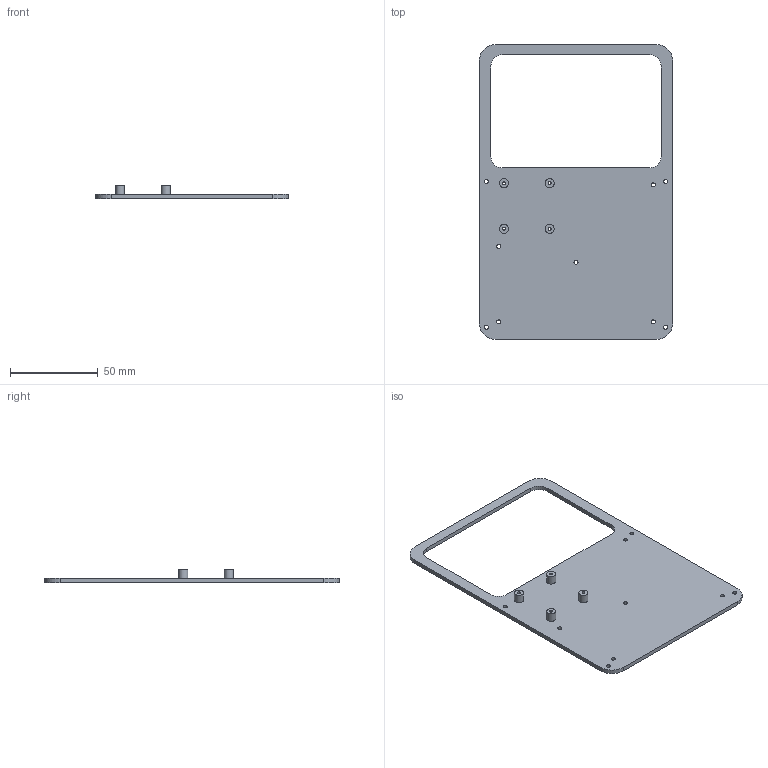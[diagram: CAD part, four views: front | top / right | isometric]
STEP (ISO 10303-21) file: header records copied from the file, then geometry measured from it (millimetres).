
FILE_DESCRIPTION(('FreeCAD Model'),'2;1');
FILE_NAME('Open CASCADE Shape Model','2026-10-20T15:18:15',('FreeCAD'),( 'FreeCAD'),'Open CASCADE STEP processor 7.8','FreeCAD','Unknown');
FILE_SCHEMA(('AUTOMOTIVE_DESIGN { 1 0 10303 214 1 1 1 1 }'));
Length unit declared in the file: millimetre
Products named in the file (1): Open CASCADE STEP translator 7.8 3
Bounding box: 110 x 168 x 7.6 mm (x, y, z)
Volume: 29547.4 mm3; surface area: 26984 mm2
Topology: 1 solids, 1 shells, 39 faces, 99 edges, 66 vertices
Faces by surface type: cylinder 25, plane 14
Full cylindrical faces by diameter (mm): 1.6 x4, 2.3 x9, 5.2 x4
Entity records: 1269 total; most frequent: DIRECTION 229, CARTESIAN_POINT 205, ORIENTED_EDGE 198, EDGE_CURVE 99, AXIS2_PLACEMENT_3D 90, FACE_BOUND 71, EDGE_LOOP 71, VERTEX_POINT 66
